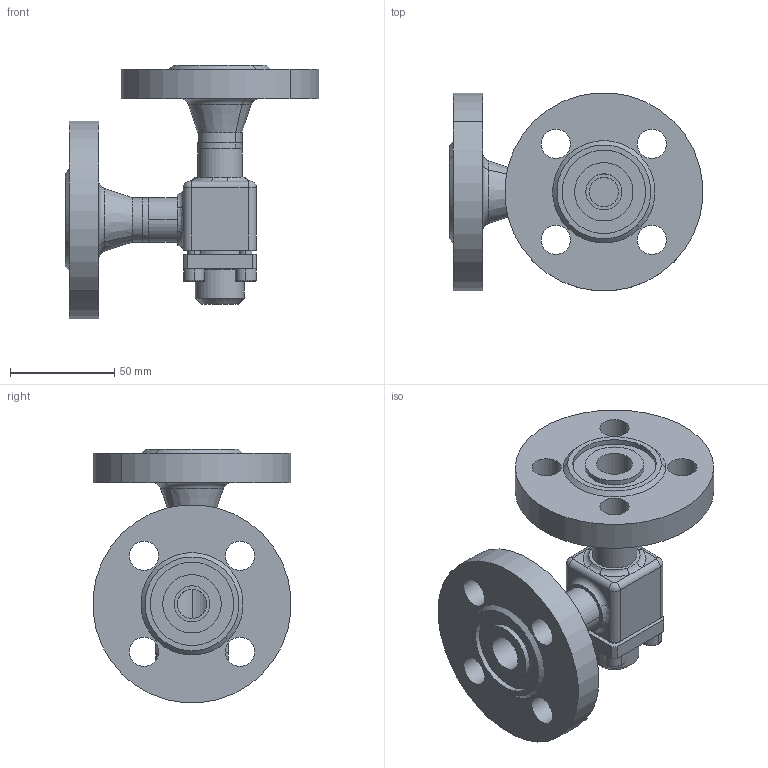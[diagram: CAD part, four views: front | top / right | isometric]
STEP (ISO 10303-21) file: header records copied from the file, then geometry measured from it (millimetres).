
FILE_DESCRIPTION (( 'STEP AP214' ), '1' );
FILE_NAME ('RV98420-DN015_DIN-FL-N_PS40.STEP', '2006-05-02T09:36:15', ( 'Herr Grams' ), ( 'AWP GmbH' ), 'SwSTEP 2.0', 'SolidWorks 2002296', '' );
FILE_SCHEMA (( 'AUTOMOTIVE_DESIGN' ));
Length unit declared in the file: millimetre
Products named in the file (9): RV98420-DN015_DIN-FL-N_PS40; RV98300E10_Deck+Schr-DN6-15_Standard; Deckel98300E10-DN6-15_PS40_Standard; Zylinderschraube-DIN912_M 6x 18; Geh-kpl96420E10-DN15_PS40_DIN-FL_Standard; Gehäuse96400E10-DN15_PS40_R1_Standard; Flansch-DIN2635-Nut_PS40_DIN-Flansch-DN015_PS40-Nut; bead964-DN015-2_Standard; bead964-DN015-1_Standard
Assembly tree (12 placements, depth 3):
  RV98420-DN015_DIN-FL-N_PS40
    Geh-kpl96420E10-DN15_PS40_DIN-FL_Standard
      bead964-DN015-1_Standard
      Flansch-DIN2635-Nut_PS40_DIN-Flansch-DN015_PS40-Nut  x2
      Gehäuse96400E10-DN15_PS40_R1_Standard
      bead964-DN015-2_Standard
    RV98300E10_Deck+Schr-DN6-15_Standard
      Zylinderschraube-DIN912_M 6x 18  x4
      Deckel98300E10-DN6-15_PS40_Standard
Bounding box: 121.32 x 94.64 x 121.32 mm (x, y, z)
Volume: 240063.1 mm3; surface area: 68550.9 mm2
Topology: 10 solids, 10 shells, 256 faces, 571 edges, 355 vertices
Faces by surface type: cylinder 100, plane 80, cone 36, torus 25, bspline 15
Entity records: 11704 total; most frequent: CARTESIAN_POINT 7120, DIRECTION 881, ORIENTED_EDGE 770, EDGE_CURVE 385, AXIS2_PLACEMENT_3D 370, VERTEX_POINT 237, EDGE_LOOP 206, CIRCLE 198
